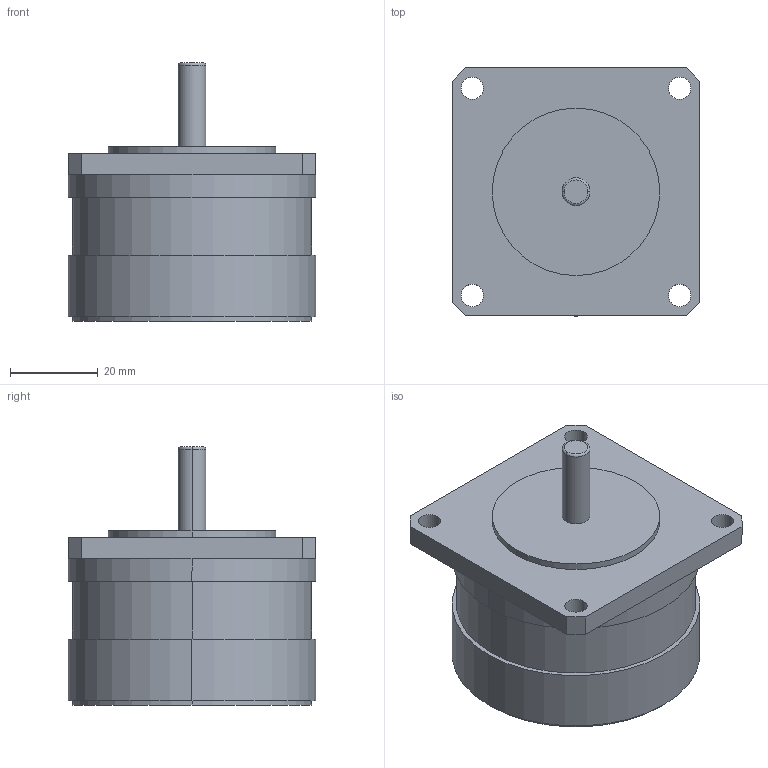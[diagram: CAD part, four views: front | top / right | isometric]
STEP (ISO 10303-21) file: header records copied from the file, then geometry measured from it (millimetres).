
FILE_DESCRIPTION (( 'STEP AP214' ), '1' );
FILE_NAME ('TS3090N14.STEP', '2016-09-08T08:51:48', ( 'hoho' ), ( '' ), 'SwSTEP 2.0', 'SolidWorks 2013', '' );
FILE_SCHEMA (( 'AUTOMOTIVE_DESIGN' ));
Length unit declared in the file: millimetre
Products named in the file (1): TS3090N14
Bounding box: 56.4 x 56.4 x 58.7 mm (x, y, z)
Volume: 97864.6 mm3; surface area: 14238.4 mm2
Topology: 1 solids, 1 shells, 41 faces, 94 edges, 60 vertices
Faces by surface type: cylinder 20, plane 19, torus 2
Entity records: 1242 total; most frequent: DIRECTION 224, CARTESIAN_POINT 196, ORIENTED_EDGE 188, EDGE_CURVE 94, AXIS2_PLACEMENT_3D 88, VERTEX_POINT 60, EDGE_LOOP 54, VECTOR 48
